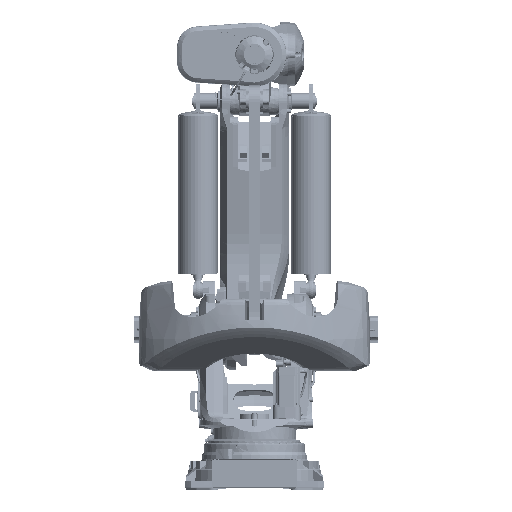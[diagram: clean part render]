
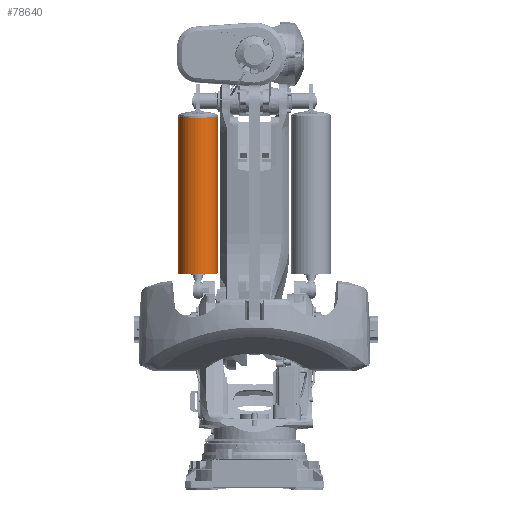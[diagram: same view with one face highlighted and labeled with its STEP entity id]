
A CAD part, left-side view. The second image highlights one B-rep face of the part: STEP entity #78640.
In plain terms, the highlighted cylindrical face has radius 130 mm (diameter 260 mm), a full revolution.
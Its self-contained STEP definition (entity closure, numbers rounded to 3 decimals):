
#19043=FACE_BOUND('',#25319,.T.);
#20343=FACE_OUTER_BOUND('',#25318,.T.);
#25318=EDGE_LOOP('',(#54179));
#25319=EDGE_LOOP('',(#54180));
#31587=CIRCLE('',#83735,130.);
#31588=CIRCLE('',#83736,130.);
#34548=VERTEX_POINT('',#114736);
#34549=VERTEX_POINT('',#114738);
#42508=EDGE_CURVE('',#34548,#34548,#31587,.T.);
#42509=EDGE_CURVE('',#34549,#34549,#31588,.T.);
#54179=ORIENTED_EDGE('',*,*,#42508,.F.);
#54180=ORIENTED_EDGE('',*,*,#42509,.T.);
#77515=CYLINDRICAL_SURFACE('',#83734,130.);
#78640=ADVANCED_FACE('',(#20343,#19043),#77515,.T.);
#83734=AXIS2_PLACEMENT_3D('',#114735,#91967,#91968);
#83735=AXIS2_PLACEMENT_3D('',#114737,#91969,#91970);
#83736=AXIS2_PLACEMENT_3D('',#114739,#91971,#91972);
#91967=DIRECTION('center_axis',(-0.046,0.,
0.999));
#91968=DIRECTION('ref_axis',(0.,1.,0.));
#91969=DIRECTION('center_axis',(0.046,0.,
-0.999));
#91970=DIRECTION('ref_axis',(0.,-1.,0.));
#91971=DIRECTION('center_axis',(0.046,0.,
-0.999));
#91972=DIRECTION('ref_axis',(0.,-1.,0.));
#114735=CARTESIAN_POINT('Origin',(472.181,375.,1437.191));
#114736=CARTESIAN_POINT('',(472.181,505.,1437.191));
#114737=CARTESIAN_POINT('Origin',(472.181,375.,1437.191));
#114738=CARTESIAN_POINT('',(424.675,505.,2477.607));
#114739=CARTESIAN_POINT('Origin',(424.675,375.,2477.607));
